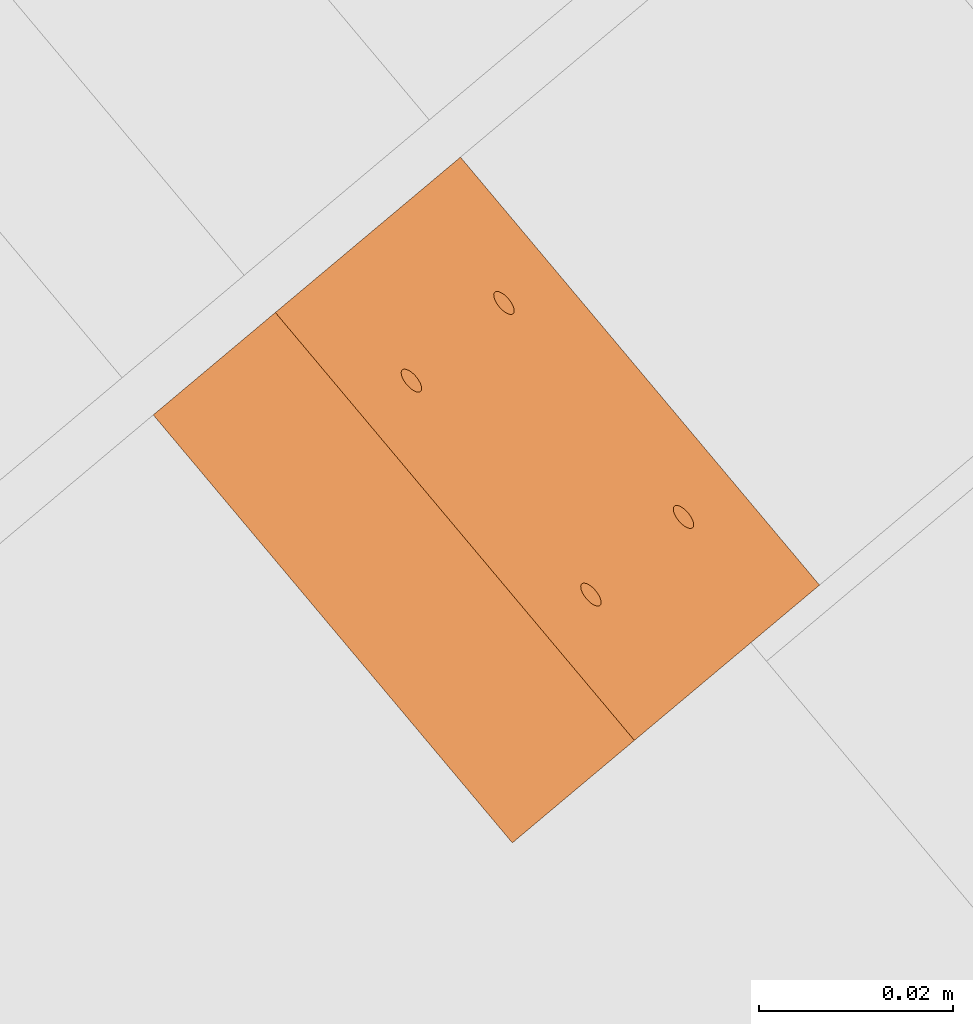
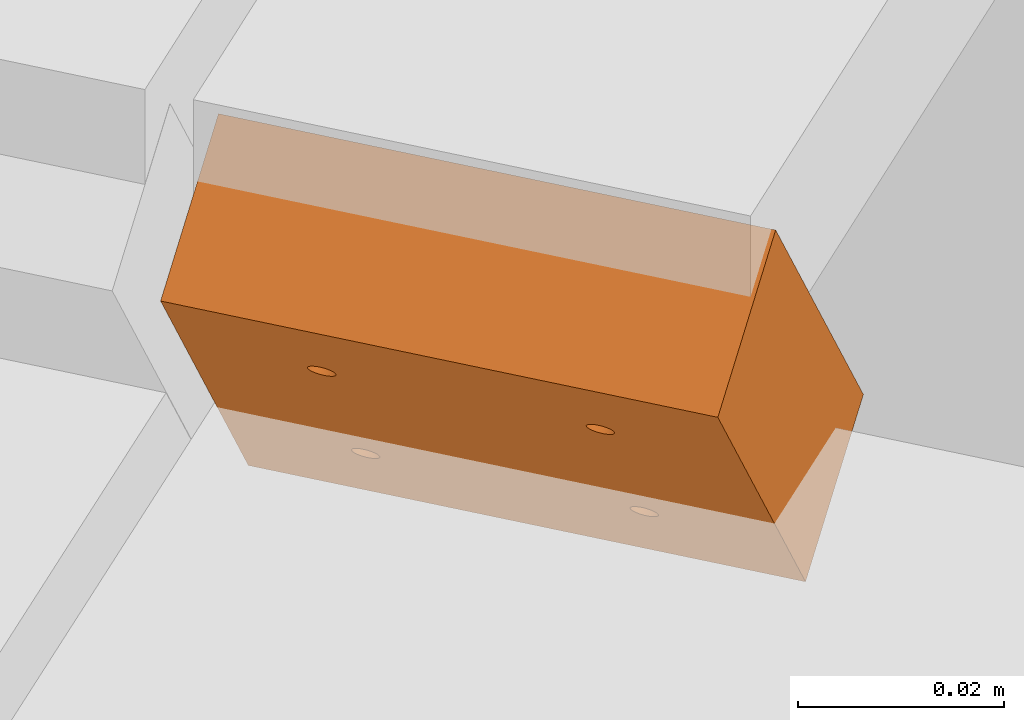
# One storey, part 325 of 338: 1 proxy, 1 element without a shape of its own.
"""IFC2X3 building model written with IfcOpenShell, lengths in millimetres."""

from ifc_helpers import new_model, entity, si_unit, converted_unit, derived_unit, money_unit, direction, frame, origin_with_axes, place, context, subcontext, project, spatial, faceted_brep, material, type_object, element, aggregate, save


model = new_model("IFC2X3")

# Units and contexts
model_context = context("Model", 3, precision=0.01, world=origin_with_axes(), true_north=direction((0.0, 1.0)))
plan_context = context("Plan", 3, precision=0.01, world=origin_with_axes(), true_north=direction((0.0, 1.0)))
body_context = subcontext(model_context, "Body", "Model", "MODEL_VIEW")
ifc_project = project(units=[si_unit("LENGTHUNIT", "METRE", prefix="MILLI"), si_unit("AREAUNIT", "SQUARE_METRE"), si_unit("VOLUMEUNIT", "CUBIC_METRE"), converted_unit("PLANEANGLEUNIT", "DEGREE", entity("IfcPlaneAngleMeasure", 0.0174532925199), si_unit("PLANEANGLEUNIT", "RADIAN"), dimensions=[0, 0, 0, 0, 0, 0, 0]), money_unit("EUR"), converted_unit("TIMEUNIT", "Year", entity("IfcTimeMeasure", 31556926.0), si_unit("TIMEUNIT", "SECOND"), dimensions=[0, 0, 1, 0, 0, 0, 0]), si_unit("MASSUNIT", "GRAM", prefix="KILO"), si_unit("THERMODYNAMICTEMPERATUREUNIT", "DEGREE_CELSIUS"), si_unit("LUMINOUSINTENSITYUNIT", "LUMEN"), si_unit("ENERGYUNIT", "JOULE", prefix="MEGA"), derived_unit("THERMALCONDUCTANCEUNIT", [(si_unit("POWERUNIT", "WATT"), 1), (si_unit("LENGTHUNIT", "METRE"), -1), (si_unit("THERMODYNAMICTEMPERATUREUNIT", "KELVIN"), -1)]), derived_unit("SPECIFICHEATCAPACITYUNIT", [(si_unit("ENERGYUNIT", "JOULE"), 1), (si_unit("MASSUNIT", "GRAM", prefix="KILO"), -1), (si_unit("THERMODYNAMICTEMPERATUREUNIT", "KELVIN"), -1)]), derived_unit("MASSDENSITYUNIT", [(si_unit("MASSUNIT", "GRAM", prefix="KILO"), 1), (si_unit("VOLUMEUNIT", "CUBIC_METRE"), -1)])], contexts=[model_context, plan_context])

# Site, building, storey
site_placement = place(None, origin_with_axes())
site = spatial("IfcSite", under=ifc_project, at=site_placement, Name="Fortuinstraat Woensdrecht", CompositionType="ELEMENT")
building_placement = place(site_placement, origin_with_axes())
building = spatial("IfcBuilding", under=site, at=building_placement, Name="IKC Fortuna", CompositionType="ELEMENT")
storey_placement = place(building_placement, origin_with_axes())
storey = spatial("IfcBuildingStorey", under=building, at=storey_placement, Name="00 begane grond", CompositionType="ELEMENT", Elevation=0.0)

# Covering, proxy
covering_type = type_object("IfcCoveringType", Name="Curtain Wall Type", PredefinedType="CEILING")
covering_placement = place(storey_placement, frame((15863.124366, 4456.31398675, 4619.99995334), z_axis=(0.0, 0.0, 1.0), x_axis=(1.0, 0.0, 0.0)))
covering = element("IfcCovering", 1, at=covering_placement, inside=storey, type_object=covering_type, Name="45_Plafondafwerking_P01", PredefinedType="CEILING")
ifc_material = material(Name="Gipsplaat")
building_element_proxy_type = type_object("IfcBuildingElementProxyType", Name="Main Panel 49 x 63 x 20", PredefinedType="NOTDEFINED")
proxy_placement = place(covering_placement, frame((-22.8260867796, -19.1533238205, 20.0000466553), z_axis=(0.0, 0.0, 1.0), x_axis=(-0.642787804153, 0.766044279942, 0.0)))
proxy = element("IfcBuildingElementProxy", 2, at=proxy_placement, type_object=building_element_proxy_type, material=ifc_material, Name="__600x905 Rockfon Krios", context=body_context, shape_type="Brep", body=[
    faceted_brep([(28.7952591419, 4.24064007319, 23.6480545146), (28.7952591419, -8.21516598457, 5.70184600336), (28.7952591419, 8.21516614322, -5.70184577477), (28.7952591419, 20.670972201, 12.2443627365), (0.0, 4.24064007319, 23.6480545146), (-28.7952591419, 4.24064007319, 23.6480545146), (-28.7952591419, -8.21516598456, 5.70184600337), (-28.7952591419, -20.6709720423, -12.2443625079), (0.0, -20.6709720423, -12.2443625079), (28.7952591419, -20.6709720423, -12.2443625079), (-14.5246510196, -2.61528679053, 13.7700994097), (-14.7748344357, -2.59620460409, 13.7975928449), (-15.0135566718, -2.55862003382, 13.8517443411), (-15.2335642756, -2.50367506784, 13.9309085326), (-15.4281724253, -2.43303918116, 14.0326800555), (-15.5914680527, -2.34885860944, 14.1539666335), (-15.7184895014, -2.25369113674, 14.2910830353), (-15.8053772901, -2.15042837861, 14.4398630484), (-15.8494913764, -2.04220792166, 14.5957860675), (-15.8494913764, -1.93231798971, 14.7541144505), (-15.8053772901, -1.82409753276, 14.9100374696), (-15.7184895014, -1.72083477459, 15.0588174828), (-15.5914680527, -1.62566730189, 15.1959338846), (-15.4281724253, -1.54148673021, 15.3172204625), (-15.2335642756, -1.47085084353, 15.4189919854), (-15.0135566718, -1.41590587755, 15.4981561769), (-14.7748344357, -1.37832130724, 15.5523076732), (-14.5246510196, -1.35923912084, 15.5798011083), (-14.3976295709, -1.35923912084, 15.5798011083), (-14.2706081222, -1.35923912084, 15.5798011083), (-14.0204247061, -1.37832130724, 15.5523076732), (-13.7817024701, -1.41590587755, 15.4981561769), (-13.5616948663, -1.47085084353, 15.4189919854), (-13.3670867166, -1.54148673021, 15.3172204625), (-13.2037910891, -1.62566730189, 15.1959338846), (-13.0767696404, -1.72083477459, 15.0588174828), (-12.9898818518, -1.82409753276, 14.9100374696), (-12.9457677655, -1.93231798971, 14.7541144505), (-12.9457677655, -2.04220792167, 14.5957860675), (-12.9898818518, -2.15042837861, 14.4398630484), (-13.0767696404, -2.25369113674, 14.2910830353), (-13.2037910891, -2.34885860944, 14.1539666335), (-13.3670867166, -2.43303918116, 14.0326800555), (-13.5616948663, -2.50367506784, 13.9309085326), (-13.7817024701, -2.55862003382, 13.8517443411), (-14.0204247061, -2.59620460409, 13.7975928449), (-14.2706081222, -2.61528679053, 13.7700994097), (-14.5246510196, -15.0710928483, -4.17610910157), (-14.7748344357, -15.0520106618, -4.14861566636), (-15.0135566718, -15.0144260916, -4.09446417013), (-15.2335642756, -14.9594811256, -4.01529997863), (-15.4281724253, -14.8888452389, -3.91352845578), (-15.5914680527, -14.8046646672, -3.7922418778), (-15.7184895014, -14.7094971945, -3.65512547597), (-15.8053772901, -14.6062344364, -3.50634546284), (-15.8494913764, -14.4980139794, -3.35042244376), (-15.8494913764, -14.3881240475, -3.19209406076), (-15.8053772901, -14.2799035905, -3.03617104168), (-15.7184895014, -14.1766408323, -2.88739102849), (-15.5914680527, -14.0814733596, -2.75027462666), (-15.4281724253, -13.997292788, -2.62898804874), (-15.2335642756, -13.9266569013, -2.52721652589), (-15.0135566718, -13.8717119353, -2.44805233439), (-14.7748344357, -13.834127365, -2.39390083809), (-14.5246510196, -13.8150451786, -2.36640740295), (-14.3976295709, -13.8150451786, -2.36640740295), (-14.2706081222, -13.8150451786, -2.36640740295), (-14.0204247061, -13.834127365, -2.3939008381), (-13.7817024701, -13.8717119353, -2.44805233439), (-13.5616948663, -13.9266569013, -2.52721652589), (-13.3670867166, -13.997292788, -2.62898804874), (-13.2037910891, -14.0814733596, -2.75027462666), (-13.0767696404, -14.1766408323, -2.88739102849), (-12.9898818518, -14.2799035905, -3.03617104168), (-12.9457677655, -14.3881240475, -3.19209406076), (-12.9457677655, -14.4980139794, -3.35042244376), (-12.9898818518, -14.6062344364, -3.50634546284), (-13.0767696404, -14.7094971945, -3.65512547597), (-13.2037910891, -14.8046646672, -3.7922418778), (-13.3670867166, -14.8888452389, -3.91352845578), (-13.5616948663, -14.9594811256, -4.01529997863), (-13.7817024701, -15.0144260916, -4.09446417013), (-14.0204247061, -15.0520106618, -4.14861566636), (-14.2706081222, -15.0710928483, -4.17610910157), (14.2706081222, -15.0710928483, -4.17610910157), (14.0204247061, -15.0520106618, -4.14861566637), (13.7817024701, -15.0144260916, -4.09446417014), (13.5616948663, -14.9594811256, -4.01529997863), (13.3670867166, -14.8888452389, -3.91352845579), (13.2037910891, -14.8046646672, -3.7922418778), (13.0767696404, -14.7094971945, -3.65512547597), (12.9898818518, -14.6062344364, -3.50634546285), (12.9457677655, -14.4980139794, -3.35042244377), (12.9457677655, -14.3881240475, -3.19209406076), (12.9898818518, -14.2799035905, -3.03617104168), (13.0767696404, -14.1766408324, -2.8873910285), (13.2037910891, -14.0814733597, -2.75027462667), (13.3670867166, -13.997292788, -2.62898804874), (13.5616948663, -13.9266569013, -2.5272165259), (13.7817024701, -13.8717119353, -2.44805233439), (14.0204247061, -13.834127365, -2.3939008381), (14.2706081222, -13.8150451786, -2.36640740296), (14.3976295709, -13.8150451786, -2.36640740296), (14.5246510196, -13.8150451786, -2.36640740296), (14.7748344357, -13.834127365, -2.3939008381), (15.0135566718, -13.8717119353, -2.44805233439), (15.2335642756, -13.9266569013, -2.5272165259), (15.4281724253, -13.997292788, -2.62898804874), (15.5914680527, -14.0814733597, -2.75027462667), (15.7184895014, -14.1766408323, -2.8873910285), (15.8053772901, -14.2799035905, -3.03617104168), (15.8494913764, -14.3881240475, -3.19209406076), (15.8494913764, -14.4980139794, -3.35042244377), (15.8053772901, -14.6062344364, -3.50634546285), (15.7184895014, -14.7094971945, -3.65512547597), (15.5914680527, -14.8046646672, -3.7922418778), (15.4281724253, -14.8888452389, -3.91352845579), (15.2335642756, -14.9594811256, -4.01529997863), (15.0135566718, -15.0144260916, -4.09446417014), (14.7748344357, -15.0520106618, -4.14861566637), (14.5246510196, -15.0710928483, -4.17610910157), (14.2706081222, -2.61528679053, 13.7700994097), (14.0204247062, -2.59620460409, 13.7975928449), (13.7817024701, -2.55862003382, 13.8517443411), (13.5616948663, -2.50367506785, 13.9309085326), (13.3670867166, -2.43303918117, 14.0326800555), (13.2037910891, -2.34885860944, 14.1539666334), (13.0767696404, -2.25369113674, 14.2910830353), (12.9898818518, -2.15042837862, 14.4398630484), (12.9457677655, -2.04220792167, 14.5957860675), (12.9457677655, -1.93231798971, 14.7541144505), (12.9898818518, -1.82409753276, 14.9100374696), (13.0767696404, -1.72083477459, 15.0588174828), (13.2037910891, -1.6256673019, 15.1959338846), (13.3670867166, -1.54148673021, 15.3172204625), (13.5616948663, -1.47085084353, 15.4189919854), (13.7817024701, -1.41590587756, 15.4981561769), (14.0204247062, -1.37832130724, 15.5523076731), (14.2706081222, -1.35923912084, 15.5798011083), (14.3976295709, -1.35923912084, 15.5798011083), (14.5246510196, -1.35923912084, 15.5798011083), (14.7748344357, -1.37832130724, 15.5523076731), (15.0135566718, -1.41590587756, 15.4981561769), (15.2335642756, -1.47085084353, 15.4189919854), (15.4281724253, -1.54148673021, 15.3172204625), (15.5914680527, -1.6256673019, 15.1959338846), (15.7184895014, -1.7208347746, 15.0588174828), (15.8053772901, -1.82409753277, 14.9100374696), (15.8494913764, -1.93231798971, 14.7541144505), (15.8494913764, -2.04220792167, 14.5957860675), (15.8053772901, -2.15042837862, 14.4398630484), (15.7184895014, -2.25369113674, 14.2910830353), (15.5914680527, -2.34885860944, 14.1539666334), (15.4281724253, -2.43303918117, 14.0326800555), (15.2335642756, -2.50367506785, 13.9309085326), (15.0135566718, -2.55862003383, 13.8517443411), (14.7748344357, -2.59620460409, 13.7975928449), (14.5246510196, -2.61528679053, 13.7700994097), (28.7952591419, -4.24063991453, -23.648054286), (0.0, -4.24063991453, -23.648054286), (-28.7952591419, -4.24063991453, -23.648054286), (-28.7952591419, 8.21516614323, -5.70184577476), (-28.7952591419, 20.670972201, 12.2443627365), (0.0, 20.670972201, 12.2443627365), (-14.5246510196, 13.8150453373, 2.36640763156), (-14.2706081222, 13.8150453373, 2.36640763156), (-14.0204247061, 13.8341275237, 2.39390106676), (-13.7817024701, 13.871712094, 2.44805256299), (-13.5616948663, 13.9266570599, 2.52721675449), (-13.3670867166, 13.9972929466, 2.62898827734), (-13.2037910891, 14.0814735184, 2.75027485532), (-13.0767696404, 14.1766409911, 2.88739125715), (-12.9898818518, 14.2799037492, 3.03617127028), (-12.9457677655, 14.3881242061, 3.19209428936), (-12.9457677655, 14.4980141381, 3.35042267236), (-12.9898818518, 14.606234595, 3.50634569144), (-13.0767696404, 14.7094973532, 3.65512570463), (-13.2037910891, 14.8046648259, 3.79224210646), (-13.3670867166, 14.8888453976, 3.91352868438), (-13.5616948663, 14.9594812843, 4.01530020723), (-13.7817024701, 15.0144262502, 4.09446439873), (-14.0204247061, 15.0520108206, 4.14861589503), (-14.2706081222, 15.071093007, 4.17610933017), (-14.3976295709, 15.0710930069, 4.17610933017), (-14.5246510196, 15.0710930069, 4.17610933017), (-14.7748344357, 15.0520108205, 4.14861589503), (-15.0135566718, 15.0144262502, 4.09446439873), (-15.2335642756, 14.9594812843, 4.01530020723), (-15.4281724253, 14.8888453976, 3.91352868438), (-15.5914680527, 14.8046648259, 3.79224210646), (-15.7184895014, 14.7094973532, 3.65512570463), (-15.8053772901, 14.606234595, 3.50634569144), (-15.8494913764, 14.4980141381, 3.35042267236), (-15.8494913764, 14.3881242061, 3.19209428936), (-15.8053772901, 14.2799037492, 3.03617127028), (-15.7184895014, 14.1766409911, 2.88739125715), (-15.5914680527, 14.0814735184, 2.75027485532), (-15.4281724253, 13.9972929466, 2.62898827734), (-15.2335642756, 13.9266570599, 2.52721675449), (-15.0135566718, 13.871712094, 2.44805256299), (-14.7748344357, 13.8341275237, 2.39390106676), (-14.5246510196, 1.3592392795, -15.5798008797), (-14.2706081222, 1.3592392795, -15.5798008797), (-14.0204247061, 1.37832146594, -15.5523074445), (-13.7817024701, 1.41590603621, -15.4981559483), (-13.5616948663, 1.47085100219, -15.4189917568), (-13.3670867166, 1.54148688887, -15.3172202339), (-13.2037910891, 1.6256674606, -15.1959336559), (-13.0767696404, 1.72083493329, -15.0588172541), (-12.9898818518, 1.82409769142, -14.910037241), (-12.9457677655, 1.93231814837, -14.7541142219), (-12.9457677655, 2.04220808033, -14.5957858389), (-12.9898818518, 2.15042853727, -14.4398628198), (-13.0767696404, 2.25369129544, -14.2910828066), (-13.2037910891, 2.34885876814, -14.1539664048), (-13.3670867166, 2.43303933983, -14.0326798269), (-13.5616948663, 2.50367522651, -13.930908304), (-13.7817024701, 2.55862019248, -13.8517441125), (-14.0204247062, 2.59620476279, -13.7975926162), (-14.2706081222, 2.61528694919, -13.7700991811), (-14.3976295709, 2.61528694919, -13.7700991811), (-14.5246510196, 2.61528694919, -13.7700991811), (-14.7748344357, 2.59620476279, -13.7975926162), (-15.0135566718, 2.55862019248, -13.8517441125), (-15.2335642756, 2.50367522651, -13.930908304), (-15.4281724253, 2.43303933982, -14.0326798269), (-15.5914680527, 2.34885876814, -14.1539664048), (-15.7184895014, 2.25369129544, -14.2910828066), (-15.8053772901, 2.15042853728, -14.4398628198), (-15.8494913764, 2.04220808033, -14.5957858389), (-15.8494913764, 1.93231814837, -14.7541142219), (-15.8053772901, 1.82409769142, -14.910037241), (-15.7184895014, 1.7208349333, -15.0588172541), (-15.5914680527, 1.6256674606, -15.1959336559), (-15.4281724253, 1.54148688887, -15.3172202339), (-15.2335642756, 1.47085100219, -15.4189917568), (-15.0135566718, 1.41590603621, -15.4981559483), (-14.7748344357, 1.37832146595, -15.5523074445), (14.2706081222, 1.3592392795, -15.5798008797), (14.5246510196, 1.3592392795, -15.5798008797), (14.7748344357, 1.37832146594, -15.5523074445), (15.0135566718, 1.41590603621, -15.4981559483), (15.2335642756, 1.47085100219, -15.4189917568), (15.4281724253, 1.54148688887, -15.3172202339), (15.5914680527, 1.62566746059, -15.1959336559), (15.7184895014, 1.72083493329, -15.0588172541), (15.8053772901, 1.82409769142, -14.910037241), (15.8494913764, 1.93231814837, -14.7541142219), (15.8494913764, 2.04220808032, -14.5957858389), (15.8053772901, 2.15042853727, -14.4398628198), (15.7184895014, 2.25369129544, -14.2910828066), (15.5914680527, 2.34885876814, -14.1539664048), (15.4281724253, 2.43303933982, -14.0326798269), (15.2335642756, 2.5036752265, -13.930908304), (15.0135566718, 2.55862019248, -13.8517441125), (14.7748344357, 2.59620476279, -13.7975926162), (14.5246510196, 2.61528694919, -13.7700991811), (14.3976295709, 2.61528694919, -13.7700991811), (14.2706081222, 2.61528694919, -13.7700991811), (14.0204247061, 2.59620476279, -13.7975926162), (13.7817024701, 2.55862019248, -13.8517441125), (13.5616948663, 2.5036752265, -13.930908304), (13.3670867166, 2.43303933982, -14.0326798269), (13.2037910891, 2.34885876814, -14.1539664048), (13.0767696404, 2.25369129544, -14.2910828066), (12.9898818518, 2.15042853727, -14.4398628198), (12.9457677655, 2.04220808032, -14.5957858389), (12.9457677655, 1.93231814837, -14.7541142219), (12.9898818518, 1.82409769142, -14.910037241), (13.0767696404, 1.72083493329, -15.0588172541), (13.2037910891, 1.62566746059, -15.1959336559), (13.3670867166, 1.54148688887, -15.3172202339), (13.5616948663, 1.47085100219, -15.4189917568), (13.7817024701, 1.41590603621, -15.4981559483), (14.0204247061, 1.37832146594, -15.5523074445), (14.2706081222, 13.8150453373, 2.36640763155), (14.5246510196, 13.8150453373, 2.36640763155), (14.7748344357, 13.8341275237, 2.39390106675), (15.0135566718, 13.871712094, 2.44805256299), (15.2335642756, 13.9266570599, 2.52721675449), (15.4281724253, 13.9972929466, 2.62898827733), (15.5914680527, 14.0814735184, 2.75027485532), (15.7184895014, 14.176640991, 2.88739125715), (15.8053772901, 14.2799037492, 3.03617127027), (15.8494913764, 14.3881242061, 3.19209428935), (15.8494913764, 14.4980141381, 3.35042267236), (15.8053772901, 14.606234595, 3.50634569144), (15.7184895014, 14.7094973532, 3.65512570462), (15.5914680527, 14.8046648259, 3.79224210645), (15.4281724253, 14.8888453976, 3.91352868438), (15.2335642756, 14.9594812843, 4.01530020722), (15.0135566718, 15.0144262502, 4.09446439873), (14.7748344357, 15.0520108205, 4.14861589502), (14.5246510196, 15.0710930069, 4.17610933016), (14.3976295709, 15.0710930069, 4.17610933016), (14.2706081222, 15.0710930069, 4.17610933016), (14.0204247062, 15.0520108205, 4.14861589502), (13.7817024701, 15.0144262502, 4.09446439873), (13.5616948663, 14.9594812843, 4.01530020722), (13.3670867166, 14.8888453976, 3.91352868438), (13.2037910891, 14.8046648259, 3.79224210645), (13.0767696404, 14.7094973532, 3.65512570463), (12.9898818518, 14.606234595, 3.50634569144), (12.9457677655, 14.4980141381, 3.35042267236), (12.9457677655, 14.3881242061, 3.19209428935), (12.9898818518, 14.2799037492, 3.03617127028), (13.0767696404, 14.176640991, 2.88739125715), (13.2037910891, 14.0814735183, 2.75027485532), (13.3670867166, 13.9972929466, 2.62898827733), (13.5616948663, 13.9266570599, 2.52721675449), (13.7817024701, 13.871712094, 2.44805256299), (14.0204247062, 13.8341275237, 2.39390106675)], [[[0, 1, 2, 3]], [[0, 4, 5, 6, 7, 8, 9, 1], [10, 11, 12, 13, 14, 15, 16, 17, 18, 19, 20, 21, 22, 23, 24, 25, 26, 27, 28, 29, 30, 31, 32, 33, 34, 35, 36, 37, 38, 39, 40, 41, 42, 43, 44, 45, 46], [47, 48, 49, 50, 51, 52, 53, 54, 55, 56, 57, 58, 59, 60, 61, 62, 63, 64, 65, 66, 67, 68, 69, 70, 71, 72, 73, 74, 75, 76, 77, 78, 79, 80, 81, 82, 83], [84, 85, 86, 87, 88, 89, 90, 91, 92, 93, 94, 95, 96, 97, 98, 99, 100, 101, 102, 103, 104, 105, 106, 107, 108, 109, 110, 111, 112, 113, 114, 115, 116, 117, 118, 119, 120], [121, 122, 123, 124, 125, 126, 127, 128, 129, 130, 131, 132, 133, 134, 135, 136, 137, 138, 139, 140, 141, 142, 143, 144, 145, 146, 147, 148, 149, 150, 151, 152, 153, 154, 155, 156, 157]], [[1, 9, 158, 2]], [[3, 2, 158, 159, 160, 161, 162, 163], [164, 165, 166, 167, 168, 169, 170, 171, 172, 173, 174, 175, 176, 177, 178, 179, 180, 181, 182, 183, 184, 185, 186, 187, 188, 189, 190, 191, 192, 193, 194, 195, 196, 197, 198, 199, 200], [201, 202, 203, 204, 205, 206, 207, 208, 209, 210, 211, 212, 213, 214, 215, 216, 217, 218, 219, 220, 221, 222, 223, 224, 225, 226, 227, 228, 229, 230, 231, 232, 233, 234, 235, 236, 237], [238, 239, 240, 241, 242, 243, 244, 245, 246, 247, 248, 249, 250, 251, 252, 253, 254, 255, 256, 257, 258, 259, 260, 261, 262, 263, 264, 265, 266, 267, 268, 269, 270, 271, 272, 273, 274], [275, 276, 277, 278, 279, 280, 281, 282, 283, 284, 285, 286, 287, 288, 289, 290, 291, 292, 293, 294, 295, 296, 297, 298, 299, 300, 301, 302, 303, 304, 305, 306, 307, 308, 309, 310, 311]], [[4, 0, 3, 163]], [[5, 4, 163, 162]], [[6, 5, 162, 161]], [[7, 6, 161, 160]], [[8, 7, 160, 159]], [[9, 8, 159, 158]], [[11, 10, 164, 200]], [[12, 11, 200, 199]], [[13, 12, 199, 198]], [[14, 13, 198, 197]], [[15, 14, 197, 196]], [[16, 15, 196, 195]], [[17, 16, 195, 194]], [[18, 17, 194, 193]], [[19, 18, 193, 192]], [[20, 19, 192, 191]], [[21, 20, 191, 190]], [[22, 21, 190, 189]], [[23, 22, 189, 188]], [[24, 23, 188, 187]], [[25, 24, 187, 186]], [[26, 25, 186, 185]], [[27, 26, 185, 184]], [[28, 27, 184, 183]], [[29, 28, 183, 182]], [[30, 29, 182, 181]], [[31, 30, 181, 180]], [[32, 31, 180, 179]], [[33, 32, 179, 178]], [[34, 33, 178, 177]], [[35, 34, 177, 176]], [[36, 35, 176, 175]], [[37, 36, 175, 174]], [[38, 37, 174, 173]], [[39, 38, 173, 172]], [[40, 39, 172, 171]], [[41, 40, 171, 170]], [[42, 41, 170, 169]], [[43, 42, 169, 168]], [[44, 43, 168, 167]], [[45, 44, 167, 166]], [[46, 45, 166, 165]], [[10, 46, 165, 164]], [[48, 47, 201, 237]], [[49, 48, 237, 236]], [[50, 49, 236, 235]], [[51, 50, 235, 234]], [[52, 51, 234, 233]], [[53, 52, 233, 232]], [[54, 53, 232, 231]], [[55, 54, 231, 230]], [[56, 55, 230, 229]], [[57, 56, 229, 228]], [[58, 57, 228, 227]], [[59, 58, 227, 226]], [[60, 59, 226, 225]], [[61, 60, 225, 224]], [[62, 61, 224, 223]], [[63, 62, 223, 222]], [[64, 63, 222, 221]], [[65, 64, 221, 220]], [[66, 65, 220, 219]], [[67, 66, 219, 218]], [[68, 67, 218, 217]], [[69, 68, 217, 216]], [[70, 69, 216, 215]], [[71, 70, 215, 214]], [[72, 71, 214, 213]], [[73, 72, 213, 212]], [[74, 73, 212, 211]], [[75, 74, 211, 210]], [[76, 75, 210, 209]], [[77, 76, 209, 208]], [[78, 77, 208, 207]], [[79, 78, 207, 206]], [[80, 79, 206, 205]], [[81, 80, 205, 204]], [[82, 81, 204, 203]], [[83, 82, 203, 202]], [[47, 83, 202, 201]], [[85, 84, 238, 274]], [[86, 85, 274, 273]], [[87, 86, 273, 272]], [[88, 87, 272, 271]], [[89, 88, 271, 270]], [[90, 89, 270, 269]], [[91, 90, 269, 268]], [[92, 91, 268, 267]], [[93, 92, 267, 266]], [[94, 93, 266, 265]], [[95, 94, 265, 264]], [[96, 95, 264, 263]], [[97, 96, 263, 262]], [[98, 97, 262, 261]], [[99, 98, 261, 260]], [[100, 99, 260, 259]], [[101, 100, 259, 258]], [[102, 101, 258, 257]], [[103, 102, 257, 256]], [[104, 103, 256, 255]], [[105, 104, 255, 254]], [[106, 105, 254, 253]], [[107, 106, 253, 252]], [[108, 107, 252, 251]], [[109, 108, 251, 250]], [[110, 109, 250, 249]], [[111, 110, 249, 248]], [[112, 111, 248, 247]], [[113, 112, 247, 246]], [[114, 113, 246, 245]], [[115, 114, 245, 244]], [[116, 115, 244, 243]], [[117, 116, 243, 242]], [[118, 117, 242, 241]], [[119, 118, 241, 240]], [[120, 119, 240, 239]], [[84, 120, 239, 238]], [[122, 121, 275, 311]], [[123, 122, 311, 310]], [[124, 123, 310, 309]], [[125, 124, 309, 308]], [[126, 125, 308, 307]], [[127, 126, 307, 306]], [[128, 127, 306, 305]], [[129, 128, 305, 304]], [[130, 129, 304, 303]], [[131, 130, 303, 302]], [[132, 131, 302, 301]], [[133, 132, 301, 300]], [[134, 133, 300, 299]], [[135, 134, 299, 298]], [[136, 135, 298, 297]], [[137, 136, 297, 296]], [[138, 137, 296, 295]], [[139, 138, 295, 294]], [[140, 139, 294, 293]], [[141, 140, 293, 292]], [[142, 141, 292, 291]], [[143, 142, 291, 290]], [[144, 143, 290, 289]], [[145, 144, 289, 288]], [[146, 145, 288, 287]], [[147, 146, 287, 286]], [[148, 147, 286, 285]], [[149, 148, 285, 284]], [[150, 149, 284, 283]], [[151, 150, 283, 282]], [[152, 151, 282, 281]], [[153, 152, 281, 280]], [[154, 153, 280, 279]], [[155, 154, 279, 278]], [[156, 155, 278, 277]], [[157, 156, 277, 276]], [[121, 157, 276, 275]]]),
])
aggregate(covering, [proxy])

save(model, "model.ifc")
